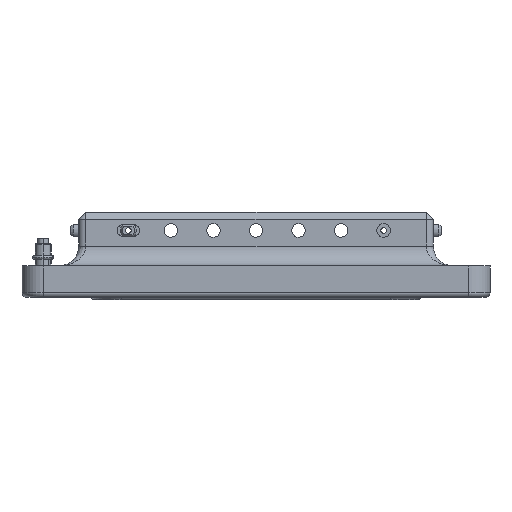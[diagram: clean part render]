
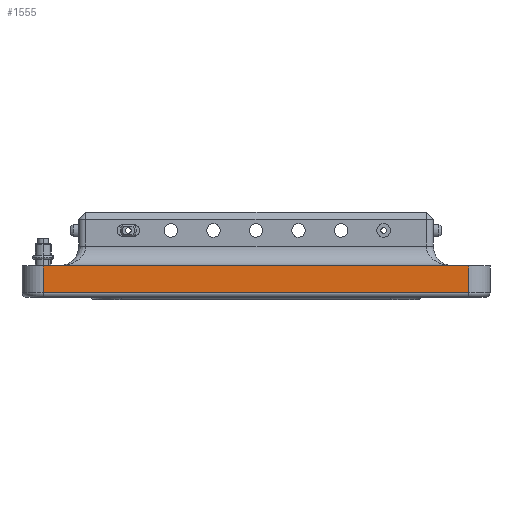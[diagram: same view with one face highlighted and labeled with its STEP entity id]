
A CAD part, left-side view. The second image highlights one B-rep face of the part: STEP entity #1555.
In plain terms, the highlighted planar face has unit normal (-1, 0, 0).
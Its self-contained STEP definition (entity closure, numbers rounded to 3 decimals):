
#1555=ADVANCED_FACE('Solid.13',(#3676),#3677,.F.);
#3676=FACE_OUTER_BOUND('',#6543,.T.);
#3677=PLANE('',#6544);
#6543=EDGE_LOOP('',(#11665,#11666,#11667,#11668));
#6544=AXIS2_PLACEMENT_3D('',#11669,#11670,#11671);
#11665=ORIENTED_EDGE('',*,*,#18505,.T.);
#11666=ORIENTED_EDGE('',*,*,#18506,.T.);
#11667=ORIENTED_EDGE('',*,*,#18452,.F.);
#11668=ORIENTED_EDGE('',*,*,#18507,.F.);
#11669=CARTESIAN_POINT('',(-240.0,-165.0,0.0));
#11670=DIRECTION('',(1.0,0.0,0.0));
#11671=DIRECTION('',(0.0,1.0,0.0));
#18452=EDGE_CURVE('',#22551,#22552,#22553,.F.);
#18505=EDGE_CURVE('',#22636,#22637,#22638,.F.);
#18506=EDGE_CURVE('',#22637,#22552,#22639,.T.);
#18507=EDGE_CURVE('',#22636,#22551,#22640,.T.);
#22551=VERTEX_POINT('',#27980);
#22552=VERTEX_POINT('',#27981);
#22553=LINE('',#27982,#27983);
#22636=VERTEX_POINT('',#28071);
#22637=VERTEX_POINT('',#28072);
#22638=LINE('',#28073,#28074);
#22639=LINE('',#28075,#28076);
#22640=LINE('',#28077,#28078);
#27980=CARTESIAN_POINT('',(-240.0,150.0,24.0));
#27981=CARTESIAN_POINT('',(-240.0,-150.0,24.0));
#27982=CARTESIAN_POINT('',(-240.0,0.0,24.0));
#27983=VECTOR('',#33686,1.0);
#28071=CARTESIAN_POINT('',(-240.0,150.0,5.0));
#28072=CARTESIAN_POINT('',(-240.0,-150.0,5.0));
#28073=CARTESIAN_POINT('',(-240.0,0.0,5.0));
#28074=VECTOR('',#33830,1.0);
#28075=CARTESIAN_POINT('',(-240.0,-150.0,14.5));
#28076=VECTOR('',#33831,1.0);
#28077=CARTESIAN_POINT('',(-240.0,150.0,14.5));
#28078=VECTOR('',#33832,1.0);
#33686=DIRECTION('',(0.0,1.0,0.0));
#33830=DIRECTION('',(0.0,1.0,0.0));
#33831=DIRECTION('',(0.0,0.0,1.0));
#33832=DIRECTION('',(0.0,0.0,1.0));
